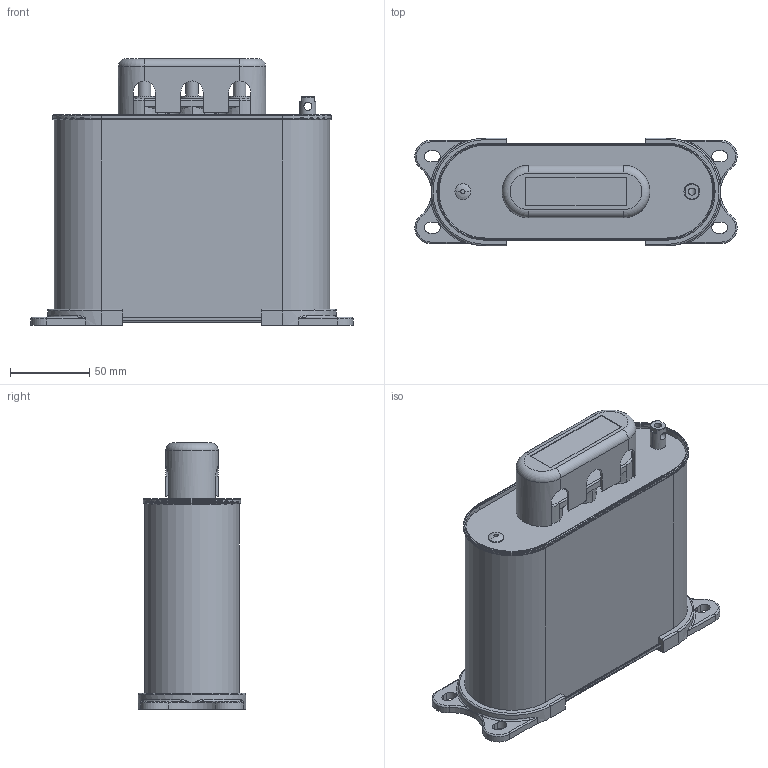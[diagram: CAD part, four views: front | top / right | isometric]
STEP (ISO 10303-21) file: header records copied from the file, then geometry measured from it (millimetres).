
FILE_DESCRIPTION((''),'2;1');
FILE_NAME('2701001600_SW0002','2025-05-06T',('hua.zhang'),(''),'PRO/ENGINEER BY PARAMETRIC TECHNOLOGY CORPORATION, 2017170','PRO/ENGINEER BY PARAMETRIC TECHNOLOGY CORPORATION, 2017170','');
FILE_SCHEMA(('CONFIG_CONTROL_DESIGN'));
Length unit declared in the file: millimetre
Products named in the file (1): 2701001600_SW0002
Bounding box: 203 x 68 x 167.84 mm (x, y, z)
Volume: 1284259.5 mm3; surface area: 118405.8 mm2
Topology: 1 solids, 5 shells, 462 faces, 1202 edges, 746 vertices
Faces by surface type: plane 200, cylinder 176, torus 58, cone 10, bspline 8, extrusion 8, sphere 2
Entity records: 16334 total; most frequent: CARTESIAN_POINT 4694, DIRECTION 2502, ORIENTED_EDGE 2404, EDGE_CURVE 1202, AXIS2_PLACEMENT_3D 904, VERTEX_POINT 746, VECTOR 694, LINE 686
